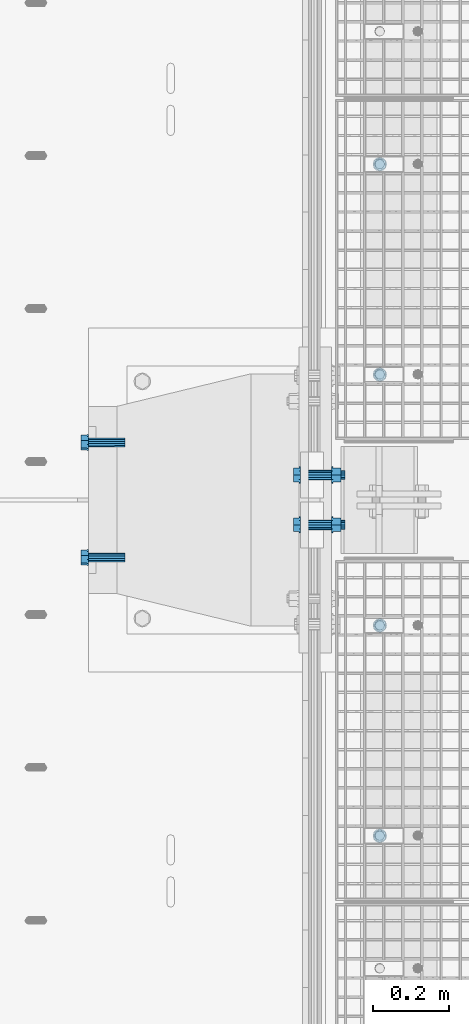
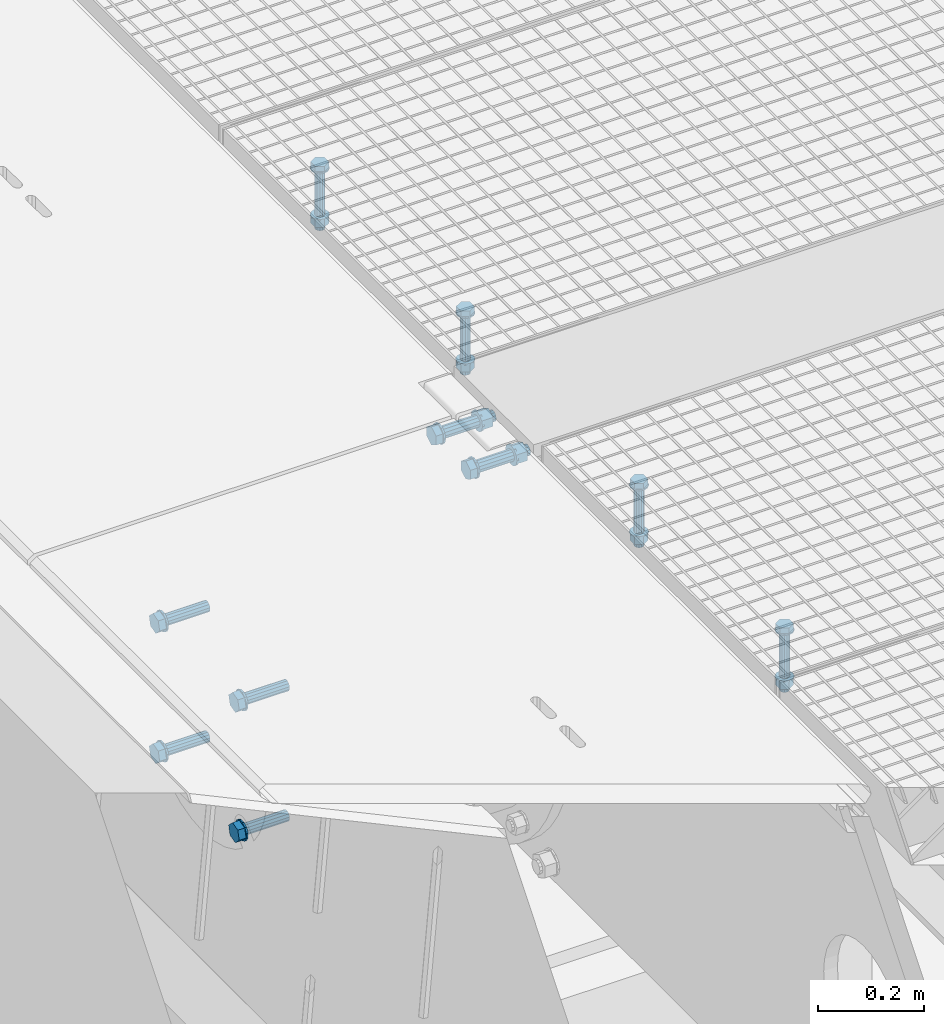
# One storey, part 13 of 1530: 5 mechanical fasteners.
"""IFC2X3 building model written with IfcOpenShell, lengths in millimetres."""

from ifc_helpers import new_model, si_unit, frame, origin_with_axes, place, context, subcontext, project, spatial, faceted_brep, source, transform, mapped, material, type_object, element, save


model = new_model("IFC2X3")

# Units and contexts
model_context = context("Model", 3, precision=1e-05, world=origin_with_axes())
body_context = subcontext(model_context, "Body", "Model", "MODEL_VIEW")
ifc_project = project(units=[si_unit("LENGTHUNIT", "METRE", prefix="MILLI"), si_unit("AREAUNIT", "SQUARE_METRE"), si_unit("VOLUMEUNIT", "CUBIC_METRE"), si_unit("MASSUNIT", "GRAM", prefix="KILO"), si_unit("TIMEUNIT", "SECOND"), si_unit("PLANEANGLEUNIT", "RADIAN"), si_unit("SOLIDANGLEUNIT", "STERADIAN"), si_unit("THERMODYNAMICTEMPERATUREUNIT", "DEGREE_CELSIUS"), si_unit("LUMINOUSINTENSITYUNIT", "LUMEN")], contexts=[model_context])

# Site, building, storey
site_placement = place(None, origin_with_axes())
site = spatial("IfcSite", under=ifc_project, at=site_placement, Name="Brattvåg", CompositionType="ELEMENT")
building_placement = place(site_placement, origin_with_axes())
building = spatial("IfcBuilding", under=site, at=building_placement, Name="Undefined", CompositionType="ELEMENT")
storey_placement = place(building_placement, origin_with_axes())
storey = spatial("IfcBuildingStorey", under=building, at=storey_placement, Name="Undefined", CompositionType="ELEMENT", Elevation=0.0)

# Mechanical fasteners
ifc_material = material(Name="8")
mechanical_fastener_type = type_object("IfcMechanicalFastenerType", Name="Bolt assembly")
shared_shape_1 = source(origin_with_axes(), body_context, "Body", "Brep", [
    faceted_brep([(17.3205080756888, -10.5, 0.0), (8.66025403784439, -10.5, 15.0), (-8.66025403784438, -10.5, 15.0), (-17.3205080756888, -10.5, 2.12115047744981e-15), (-8.66025403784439, -10.5, -15.0), (8.66025403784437, -10.5, -15.0), (8.66025403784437, 2.0, -15.0), (-8.66025403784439, 2.0, -15.0), (-17.3205080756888, 2.0, 2.12115047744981e-15), (-8.66025403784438, 2.0, 15.0), (8.66025403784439, 2.0, 15.0), (17.3205080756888, 2.0, 0.0), (10.0, 2.0, 0.0), (8.66025403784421, 2.0, 5.0000000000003), (4.9999999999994, 2.0, 8.66025403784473), (-1.03633598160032e-12, 2.0, 10.0), (-5.00000000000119, 2.0, 8.6602540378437), (-8.66025403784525, 2.0, 4.99999999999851), (-10.0, 2.0, -2.07267196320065e-12), (-8.66025403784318, 2.0, -5.00000000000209), (-4.99999999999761, 2.0, -8.66025403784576), (3.09790571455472e-12, 2.0, -10.0), (5.00000000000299, 2.0, -8.66025403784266), (8.66025403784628, 2.0, -4.99999999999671), (8.66025403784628, 142.0, -4.99999999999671), (5.00000000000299, 142.0, -8.66025403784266), (3.09790571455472e-12, 142.0, -10.0), (-4.99999999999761, 142.0, -8.66025403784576), (-8.66025403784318, 142.0, -5.00000000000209), (-10.0, 142.0, -2.07267196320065e-12), (-8.66025403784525, 142.0, 4.99999999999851), (-5.00000000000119, 142.0, 8.6602540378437), (-1.03633598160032e-12, 142.0, 10.0), (4.9999999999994, 142.0, 8.66025403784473), (8.66025403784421, 142.0, 5.0000000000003), (10.0, 142.0, 0.0), (18.5, 2.0, 0.0), (16.0214699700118, 2.0, 9.25000000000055), (9.2499999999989, 2.0, 16.0214699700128), (-1.9172215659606e-12, 2.0, 18.5), (-9.25000000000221, 2.0, 16.0214699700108), (-16.0214699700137, 2.0, 9.24999999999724), (-18.5, 2.0, -3.83444313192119e-12), (-16.0214699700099, 2.0, -9.25000000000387), (-9.24999999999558, 2.0, -16.0214699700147), (5.73112557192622e-12, 2.0, -18.5), (9.25000000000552, 2.0, -16.0214699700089), (16.0214699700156, 2.0, -9.24999999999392), (16.0214699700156, 5.0, -9.24999999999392), (9.25000000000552, 5.0, -16.0214699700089), (5.73112557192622e-12, 5.0, -18.5), (-9.24999999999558, 5.0, -16.0214699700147), (-16.0214699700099, 5.0, -9.25000000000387), (-18.5, 5.0, -3.83444313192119e-12), (-16.0214699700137, 5.0, 9.24999999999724), (-9.25000000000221, 5.0, 16.0214699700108), (-1.9172215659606e-12, 5.0, 18.5), (9.2499999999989, 5.0, 16.0214699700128), (16.0214699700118, 5.0, 9.25000000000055), (18.5, 5.0, 0.0), (18.5, 109.998931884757, 0.0), (16.0214699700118, 109.998931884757, 9.25000000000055), (9.2499999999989, 109.998931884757, 16.0214699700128), (-1.9172215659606e-12, 109.998931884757, 18.5), (-9.25000000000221, 109.998931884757, 16.0214699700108), (-16.0214699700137, 109.998931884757, 9.24999999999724), (-18.5, 109.998931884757, -3.83444313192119e-12), (-16.0214699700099, 109.998931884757, -9.25000000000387), (-9.24999999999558, 109.998931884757, -16.0214699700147), (5.73112557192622e-12, 109.998931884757, -18.5), (9.25000000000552, 109.998931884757, -16.0214699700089), (16.0214699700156, 109.998931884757, -9.24999999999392), (16.0214699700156, 112.998931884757, -9.24999999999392), (9.25000000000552, 112.998931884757, -16.0214699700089), (5.73112557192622e-12, 112.998931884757, -18.5), (-9.24999999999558, 112.998931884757, -16.0214699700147), (-16.0214699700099, 112.998931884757, -9.25000000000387), (-18.5, 112.998931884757, -3.83444313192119e-12), (-16.0214699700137, 112.998931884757, 9.24999999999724), (-9.25000000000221, 112.998931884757, 16.0214699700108), (-1.9172215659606e-12, 112.998931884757, 18.5), (9.2499999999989, 112.998931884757, 16.0214699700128), (16.0214699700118, 112.998931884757, 9.25000000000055), (18.5, 112.998931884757, 0.0), (17.3205080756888, 112.998931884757, 0.0), (8.66025403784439, 112.998931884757, 15.0), (-8.66025403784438, 112.998931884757, 15.0), (-17.3205080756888, 112.998931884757, 2.12115047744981e-15), (-8.66025403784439, 112.998931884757, -15.0), (8.66025403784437, 112.998931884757, -15.0), (8.66025403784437, 130.998931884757, -15.0), (-8.66025403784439, 130.998931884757, -15.0), (-17.3205080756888, 130.998931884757, 2.12115047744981e-15), (-8.66025403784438, 130.998931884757, 15.0), (8.66025403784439, 130.998931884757, 15.0), (17.3205080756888, 130.998931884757, 0.0)], [[[0, 1, 2, 3, 4, 5]], [[6, 7, 8, 9, 10, 11]], [[0, 11, 10, 1]], [[1, 10, 9, 2]], [[2, 9, 8, 3]], [[3, 8, 7, 4]], [[4, 7, 6, 5]], [[5, 6, 11, 0]], [[12, 13, 14, 15, 16, 17, 18, 19, 20, 21, 22, 23]], [[24, 25, 26, 27, 28, 29, 30, 31, 32, 33, 34, 35]], [[12, 35, 34, 13]], [[13, 34, 33, 14]], [[14, 33, 32, 15]], [[15, 32, 31, 16]], [[16, 31, 30, 17]], [[17, 30, 29, 18]], [[18, 29, 28, 19]], [[19, 28, 27, 20]], [[20, 27, 26, 21]], [[21, 26, 25, 22]], [[22, 25, 24, 23]], [[23, 24, 35, 12]], [[36, 37, 38, 39, 40, 41, 42, 43, 44, 45, 46, 47]], [[48, 49, 50, 51, 52, 53, 54, 55, 56, 57, 58, 59]], [[36, 59, 58, 37]], [[37, 58, 57, 38]], [[38, 57, 56, 39]], [[39, 56, 55, 40]], [[40, 55, 54, 41]], [[41, 54, 53, 42]], [[42, 53, 52, 43]], [[43, 52, 51, 44]], [[44, 51, 50, 45]], [[45, 50, 49, 46]], [[46, 49, 48, 47]], [[47, 48, 59, 36]], [[60, 61, 62, 63, 64, 65, 66, 67, 68, 69, 70, 71]], [[72, 73, 74, 75, 76, 77, 78, 79, 80, 81, 82, 83]], [[60, 83, 82, 61]], [[61, 82, 81, 62]], [[62, 81, 80, 63]], [[63, 80, 79, 64]], [[64, 79, 78, 65]], [[65, 78, 77, 66]], [[66, 77, 76, 67]], [[67, 76, 75, 68]], [[68, 75, 74, 69]], [[69, 74, 73, 70]], [[70, 73, 72, 71]], [[71, 72, 83, 60]], [[84, 85, 86, 87, 88, 89]], [[90, 91, 92, 93, 94, 95]], [[84, 95, 94, 85]], [[85, 94, 93, 86]], [[86, 93, 92, 87]], [[87, 92, 91, 88]], [[88, 91, 90, 89]], [[89, 90, 95, 84]]]),
])
for number, where, z_axis, x_axis, name in (
    (1, (137.004779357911, 6327.91931152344, -25.0), (-1.0, 1.99999855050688e-09, 0.0), (0.0, 1.0, 0.0), "Bolt assembly"),
    (2, (137.004779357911, 5121.91931152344, -25.0), (-1.0, 1.99999855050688e-09, 0.0), (0.0, 1.0, 0.0), "Bolt assembly"),
):
    element("IfcMechanicalFastener", number, at=place(storey_placement, frame(where, z_axis=z_axis, x_axis=x_axis)), inside=storey, type_object=mechanical_fastener_type, material=ifc_material, Name=name, NominalDiameter=20.0, NominalLength=140.0, context=body_context, shape_type="MappedRepresentation", body=[
        mapped(shared_shape_1, transform((0.0, 0.0, 0.0))),
        mapped(shared_shape_1, transform((549.999999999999, 0.0, 0.0))),
    ])
shared_shape_2 = source(origin_with_axes(), body_context, "Body", "Brep", [
    faceted_brep([(20.7846096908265, -19.0, 0.0), (10.3923048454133, -19.0, 18.0), (-10.3923048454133, -19.0, 18.0), (-20.7846096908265, -19.0, 2.54538057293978e-15), (-10.3923048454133, -19.0, -18.0), (10.3923048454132, -19.0, -18.0), (10.3923048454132, -4.0, -18.0), (-10.3923048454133, -4.0, -18.0), (-20.7846096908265, -4.0, 2.54538057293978e-15), (-10.3923048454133, -4.0, 18.0), (10.3923048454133, -4.0, 18.0), (20.7846096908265, -4.0, 0.0), (12.0, -4.0, 0.0), (10.3923048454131, -4.0, 6.00000000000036), (5.99999999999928, -4.0, 10.3923048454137), (-1.24360317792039e-12, -4.0, 12.0), (-6.00000000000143, -4.0, 10.3923048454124), (-10.3923048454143, -4.0, 5.99999999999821), (-12.0, -4.0, -2.48720635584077e-12), (-10.3923048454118, -4.0, -6.00000000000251), (-5.99999999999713, -4.0, -10.3923048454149), (3.71748685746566e-12, -4.0, -12.0), (6.00000000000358, -4.0, -10.3923048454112), (10.3923048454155, -4.0, -5.99999999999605), (10.3923048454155, 96.0, -5.99999999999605), (6.00000000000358, 96.0, -10.3923048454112), (3.71748685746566e-12, 96.0, -12.0), (-5.99999999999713, 96.0, -10.3923048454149), (-10.3923048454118, 96.0, -6.00000000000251), (-12.0, 96.0, -2.48720635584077e-12), (-10.3923048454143, 96.0, 5.99999999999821), (-6.00000000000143, 96.0, 10.3923048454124), (-1.24360317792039e-12, 96.0, 12.0), (5.99999999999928, 96.0, 10.3923048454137), (10.3923048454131, 96.0, 6.00000000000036), (12.0, 96.0, 0.0), (22.0, -4.0, 0.0), (19.0525588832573, -4.0, 11.0000000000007), (10.9999999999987, -4.0, 19.0525588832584), (-2.27993915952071e-12, -4.0, 22.0), (-11.0000000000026, -4.0, 19.0525588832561), (-19.0525588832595, -4.0, 10.9999999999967), (-22.0, -4.0, -4.55987831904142e-12), (-19.052558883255, -4.0, -11.0000000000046), (-10.9999999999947, -4.0, -19.0525588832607), (6.81539257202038e-12, -4.0, -22.0), (11.0000000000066, -4.0, -19.0525588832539), (19.0525588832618, -4.0, -10.9999999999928), (19.0525588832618, 0.0, -10.9999999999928), (11.0000000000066, 0.0, -19.0525588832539), (6.81539257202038e-12, 0.0, -22.0), (-10.9999999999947, 0.0, -19.0525588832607), (-19.052558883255, 0.0, -11.0000000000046), (-22.0, 0.0, -4.55987831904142e-12), (-19.0525588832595, 0.0, 10.9999999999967), (-11.0000000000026, 0.0, 19.0525588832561), (-2.27993915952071e-12, 0.0, 22.0), (10.9999999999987, 0.0, 19.0525588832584), (19.0525588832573, 0.0, 11.0000000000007), (22.0, 0.0, 0.0)], [[[0, 1, 2, 3, 4, 5]], [[6, 7, 8, 9, 10, 11]], [[0, 11, 10, 1]], [[1, 10, 9, 2]], [[2, 9, 8, 3]], [[3, 8, 7, 4]], [[4, 7, 6, 5]], [[5, 6, 11, 0]], [[12, 13, 14, 15, 16, 17, 18, 19, 20, 21, 22, 23]], [[24, 25, 26, 27, 28, 29, 30, 31, 32, 33, 34, 35]], [[12, 35, 34, 13]], [[13, 34, 33, 14]], [[14, 33, 32, 15]], [[15, 32, 31, 16]], [[16, 31, 30, 17]], [[17, 30, 29, 18]], [[18, 29, 28, 19]], [[19, 28, 27, 20]], [[20, 27, 26, 21]], [[21, 26, 25, 22]], [[22, 25, 24, 23]], [[23, 24, 35, 12]], [[36, 37, 38, 39, 40, 41, 42, 43, 44, 45, 46, 47]], [[48, 49, 50, 51, 52, 53, 54, 55, 56, 57, 58, 59]], [[36, 59, 58, 37]], [[37, 58, 57, 38]], [[38, 57, 56, 39]], [[39, 56, 55, 40]], [[40, 55, 54, 41]], [[41, 54, 53, 42]], [[42, 53, 52, 43]], [[43, 52, 51, 44]], [[44, 51, 50, 45]], [[45, 50, 49, 46]], [[46, 49, 48, 47]], [[47, 48, 59, 36]]]),
])
mechanical_fastener_placement = place(storey_placement, frame((-625.003913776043, 5999.99526545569, -514.998199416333), z_axis=(3.30839999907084e-05, -0.70710678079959, -0.707106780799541), x_axis=(1.00000053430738e-09, 0.707106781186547, -0.707106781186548)))
element("IfcMechanicalFastener", 3, at=mechanical_fastener_placement, inside=storey, type_object=mechanical_fastener_type, material=ifc_material, Name="Bolt assembly", NominalDiameter=24.0, NominalLength=100.0, context=body_context, shape_type="MappedRepresentation", body=[
    mapped(shared_shape_2, transform((212.500000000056, 1.09366737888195e-10, 5.72981662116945e-11))),
    mapped(shared_shape_2, transform((2.5465851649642e-11, -8.85620465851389e-11, 212.499999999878))),
    mapped(shared_shape_2, transform((-212.500000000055, -1.09480424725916e-10, -5.82076609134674e-11))),
    mapped(shared_shape_2, transform((-2.36468622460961e-11, 8.84483597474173e-11, -212.49999999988))),
])
shared_shape_3 = source(origin_with_axes(), body_context, "Body", "Brep", [
    faceted_brep([(20.7846096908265, -19.0, 0.0), (10.3923048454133, -19.0, 18.0), (-10.3923048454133, -19.0, 18.0), (-20.7846096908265, -19.0, 2.54538057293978e-15), (-10.3923048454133, -19.0, -18.0), (10.3923048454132, -19.0, -18.0), (10.3923048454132, -4.0, -18.0), (-10.3923048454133, -4.0, -18.0), (-20.7846096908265, -4.0, 2.54538057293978e-15), (-10.3923048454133, -4.0, 18.0), (10.3923048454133, -4.0, 18.0), (20.7846096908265, -4.0, 0.0), (12.0, -4.0, 0.0), (10.3923048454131, -4.0, 6.00000000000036), (5.99999999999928, -4.0, 10.3923048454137), (-1.24360317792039e-12, -4.0, 12.0), (-6.00000000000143, -4.0, 10.3923048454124), (-10.3923048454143, -4.0, 5.99999999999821), (-12.0, -4.0, -2.48720635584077e-12), (-10.3923048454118, -4.0, -6.00000000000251), (-5.99999999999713, -4.0, -10.3923048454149), (3.71748685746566e-12, -4.0, -12.0), (6.00000000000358, -4.0, -10.3923048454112), (10.3923048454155, -4.0, -5.99999999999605), (10.3923048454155, 115.999999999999, -5.99999999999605), (6.00000000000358, 115.999999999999, -10.3923048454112), (3.71748685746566e-12, 115.999999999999, -12.0), (-5.99999999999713, 115.999999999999, -10.3923048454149), (-10.3923048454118, 115.999999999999, -6.00000000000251), (-12.0, 115.999999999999, -2.48720635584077e-12), (-10.3923048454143, 115.999999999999, 5.99999999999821), (-6.00000000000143, 115.999999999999, 10.3923048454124), (-1.24360317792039e-12, 115.999999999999, 12.0), (5.99999999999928, 115.999999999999, 10.3923048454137), (10.3923048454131, 115.999999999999, 6.00000000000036), (12.0, 115.999999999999, 0.0), (22.0, -4.0, 0.0), (19.0525588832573, -4.0, 11.0000000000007), (10.9999999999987, -4.0, 19.0525588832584), (-2.27993915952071e-12, -4.0, 22.0), (-11.0000000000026, -4.0, 19.0525588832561), (-19.0525588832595, -4.0, 10.9999999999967), (-22.0, -4.0, -4.55987831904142e-12), (-19.052558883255, -4.0, -11.0000000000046), (-10.9999999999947, -4.0, -19.0525588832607), (6.81539257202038e-12, -4.0, -22.0), (11.0000000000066, -4.0, -19.0525588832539), (19.0525588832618, -4.0, -10.9999999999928), (19.0525588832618, 0.0, -10.9999999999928), (11.0000000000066, 0.0, -19.0525588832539), (6.81539257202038e-12, 0.0, -22.0), (-10.9999999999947, 0.0, -19.0525588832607), (-19.052558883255, 0.0, -11.0000000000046), (-22.0, 0.0, -4.55987831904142e-12), (-19.0525588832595, 0.0, 10.9999999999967), (-11.0000000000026, 0.0, 19.0525588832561), (-2.27993915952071e-12, 0.0, 22.0), (10.9999999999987, 0.0, 19.0525588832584), (19.0525588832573, 0.0, 11.0000000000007), (22.0, 0.0, 0.0), (22.0, 80.0044371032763, 0.0), (19.0525588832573, 80.0044371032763, 11.0000000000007), (10.9999999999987, 80.0044371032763, 19.0525588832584), (-2.27993915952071e-12, 80.0044371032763, 22.0), (-11.0000000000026, 80.0044371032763, 19.0525588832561), (-19.0525588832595, 80.0044371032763, 10.9999999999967), (-22.0, 80.0044371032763, -4.55987831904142e-12), (-19.052558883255, 80.0044371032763, -11.0000000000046), (-10.9999999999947, 80.0044371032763, -19.0525588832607), (6.81539257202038e-12, 80.0044371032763, -22.0), (11.0000000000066, 80.0044371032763, -19.0525588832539), (19.0525588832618, 80.0044371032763, -10.9999999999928), (19.0525588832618, 84.0044371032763, -10.9999999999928), (11.0000000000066, 84.0044371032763, -19.0525588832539), (6.81539257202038e-12, 84.0044371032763, -22.0), (-10.9999999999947, 84.0044371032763, -19.0525588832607), (-19.052558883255, 84.0044371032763, -11.0000000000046), (-22.0, 84.0044371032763, -4.55987831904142e-12), (-19.0525588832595, 84.0044371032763, 10.9999999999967), (-11.0000000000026, 84.0044371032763, 19.0525588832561), (-2.27993915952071e-12, 84.0044371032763, 22.0), (10.9999999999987, 84.0044371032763, 19.0525588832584), (19.0525588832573, 84.0044371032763, 11.0000000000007), (22.0, 84.0044371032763, 0.0), (20.7846096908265, 84.0044371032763, 0.0), (10.3923048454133, 84.0044371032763, 18.0), (-10.3923048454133, 84.0044371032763, 18.0), (-20.7846096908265, 84.0044371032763, 2.54538057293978e-15), (-10.3923048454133, 84.0044371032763, -18.0), (10.3923048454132, 84.0044371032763, -18.0), (10.3923048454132, 105.504437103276, -18.0), (-10.3923048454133, 105.504437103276, -18.0), (-20.7846096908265, 105.504437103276, 2.54538057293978e-15), (-10.3923048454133, 105.504437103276, 18.0), (10.3923048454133, 105.504437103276, 18.0), (20.7846096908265, 105.504437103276, 0.0)], [[[0, 1, 2, 3, 4, 5]], [[6, 7, 8, 9, 10, 11]], [[0, 11, 10, 1]], [[1, 10, 9, 2]], [[2, 9, 8, 3]], [[3, 8, 7, 4]], [[4, 7, 6, 5]], [[5, 6, 11, 0]], [[12, 13, 14, 15, 16, 17, 18, 19, 20, 21, 22, 23]], [[24, 25, 26, 27, 28, 29, 30, 31, 32, 33, 34, 35]], [[12, 35, 34, 13]], [[13, 34, 33, 14]], [[14, 33, 32, 15]], [[15, 32, 31, 16]], [[16, 31, 30, 17]], [[17, 30, 29, 18]], [[18, 29, 28, 19]], [[19, 28, 27, 20]], [[20, 27, 26, 21]], [[21, 26, 25, 22]], [[22, 25, 24, 23]], [[23, 24, 35, 12]], [[36, 37, 38, 39, 40, 41, 42, 43, 44, 45, 46, 47]], [[48, 49, 50, 51, 52, 53, 54, 55, 56, 57, 58, 59]], [[36, 59, 58, 37]], [[37, 58, 57, 38]], [[38, 57, 56, 39]], [[39, 56, 55, 40]], [[40, 55, 54, 41]], [[41, 54, 53, 42]], [[42, 53, 52, 43]], [[43, 52, 51, 44]], [[44, 51, 50, 45]], [[45, 50, 49, 46]], [[46, 49, 48, 47]], [[47, 48, 59, 36]], [[60, 61, 62, 63, 64, 65, 66, 67, 68, 69, 70, 71]], [[72, 73, 74, 75, 76, 77, 78, 79, 80, 81, 82, 83]], [[60, 83, 82, 61]], [[61, 82, 81, 62]], [[62, 81, 80, 63]], [[63, 80, 79, 64]], [[64, 79, 78, 65]], [[65, 78, 77, 66]], [[66, 77, 76, 67]], [[67, 76, 75, 68]], [[68, 75, 74, 69]], [[69, 74, 73, 70]], [[70, 73, 72, 71]], [[71, 72, 83, 60]], [[84, 85, 86, 87, 88, 89]], [[90, 91, 92, 93, 94, 95]], [[84, 95, 94, 85]], [[85, 94, 93, 86]], [[86, 93, 92, 87]], [[87, 92, 91, 88]], [[88, 91, 90, 89]], [[89, 90, 95, 84]]]),
    faceted_brep([(13.0, 0.0999999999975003, 0.0), (11.2583302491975, 0.0999999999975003, 6.50000000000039), (6.49999999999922, 0.0999999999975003, 11.2583302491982), (-1.34723677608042e-12, 0.0999999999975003, 13.0), (-6.50000000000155, 0.0999999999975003, 11.2583302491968), (-11.2583302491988, 0.0999999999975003, 6.49999999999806), (-13.0, 0.0999999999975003, -2.69447355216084e-12), (-11.2583302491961, 0.0999999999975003, -6.50000000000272), (-6.4999999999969, 0.0999999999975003, -11.2583302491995), (4.02727742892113e-12, 0.0999999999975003, -13.0), (6.50000000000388, 0.0999999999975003, -11.2583302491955), (11.2583302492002, 0.0999999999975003, -6.49999999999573), (11.2583302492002, 20.0999999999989, -6.49999999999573), (6.50000000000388, 20.0999999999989, -11.2583302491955), (4.02727742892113e-12, 20.0999999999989, -13.0), (-6.4999999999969, 20.0999999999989, -11.2583302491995), (-11.2583302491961, 20.0999999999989, -6.50000000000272), (-13.0, 20.0999999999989, -2.69447355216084e-12), (-11.2583302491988, 20.0999999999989, 6.49999999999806), (-6.50000000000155, 20.0999999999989, 11.2583302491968), (-1.34723677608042e-12, 20.0999999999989, 13.0), (6.49999999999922, 20.0999999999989, 11.2583302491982), (11.2583302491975, 20.0999999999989, 6.50000000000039), (13.0, 20.0999999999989, 0.0), (13.0, 20.0050209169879, 0.0), (11.2583302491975, 20.0050209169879, 6.50000000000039), (6.49999999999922, 20.0050209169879, 11.2583302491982), (-1.34723677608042e-12, 20.0050209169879, 13.0), (-6.50000000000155, 20.0050209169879, 11.2583302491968), (-11.2583302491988, 20.0050209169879, 6.49999999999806), (-13.0, 20.0050209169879, -2.69447355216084e-12), (-11.2583302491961, 20.0050209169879, -6.50000000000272), (-6.4999999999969, 20.0050209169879, -11.2583302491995), (4.02727742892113e-12, 20.0050209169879, -13.0), (6.50000000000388, 20.0050209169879, -11.2583302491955), (11.2583302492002, 20.0050209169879, -6.49999999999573), (11.2583302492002, 50.0050209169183, -6.49999999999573), (6.50000000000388, 50.0050209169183, -11.2583302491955), (4.02727742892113e-12, 50.0050209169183, -13.0), (-6.4999999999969, 50.0050209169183, -11.2583302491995), (-11.2583302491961, 50.0050209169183, -6.50000000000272), (-13.0, 50.0050209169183, -2.69447355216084e-12), (-11.2583302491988, 50.0050209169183, 6.49999999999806), (-6.50000000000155, 50.0050209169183, 11.2583302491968), (-1.34723677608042e-12, 50.0050209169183, 13.0), (6.49999999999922, 50.0050209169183, 11.2583302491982), (11.2583302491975, 50.0050209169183, 6.50000000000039), (13.0, 50.0050209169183, 0.0), (13.0, 49.9044371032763, 0.0), (11.2583302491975, 49.9044371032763, 6.50000000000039), (6.49999999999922, 49.9044371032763, 11.2583302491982), (-1.34723677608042e-12, 49.9044371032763, 13.0), (-6.50000000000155, 49.9044371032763, 11.2583302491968), (-11.2583302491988, 49.9044371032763, 6.49999999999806), (-13.0, 49.9044371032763, -2.69447355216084e-12), (-11.2583302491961, 49.9044371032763, -6.50000000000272), (-6.4999999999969, 49.9044371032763, -11.2583302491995), (4.02727742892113e-12, 49.9044371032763, -13.0), (6.50000000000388, 49.9044371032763, -11.2583302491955), (11.2583302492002, 49.9044371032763, -6.49999999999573), (11.2583302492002, 80.0044371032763, -6.49999999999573), (6.50000000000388, 80.0044371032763, -11.2583302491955), (4.02727742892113e-12, 80.0044371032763, -13.0), (-6.4999999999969, 80.0044371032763, -11.2583302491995), (-11.2583302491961, 80.0044371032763, -6.50000000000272), (-13.0, 80.0044371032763, -2.69447355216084e-12), (-11.2583302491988, 80.0044371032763, 6.49999999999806), (-6.50000000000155, 80.0044371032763, 11.2583302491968), (-1.34723677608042e-12, 80.0044371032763, 13.0), (6.49999999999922, 80.0044371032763, 11.2583302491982), (11.2583302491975, 80.0044371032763, 6.50000000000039), (13.0, 80.0044371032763, 0.0)], [[[0, 1, 2, 3, 4, 5, 6, 7, 8, 9, 10, 11]], [[12, 13, 14, 15, 16, 17, 18, 19, 20, 21, 22, 23]], [[0, 23, 22, 1]], [[1, 22, 21, 2]], [[2, 21, 20, 3]], [[3, 20, 19, 4]], [[4, 19, 18, 5]], [[5, 18, 17, 6]], [[6, 17, 16, 7]], [[7, 16, 15, 8]], [[8, 15, 14, 9]], [[9, 14, 13, 10]], [[10, 13, 12, 11]], [[11, 12, 23, 0]], [[24, 25, 26, 27, 28, 29, 30, 31, 32, 33, 34, 35]], [[36, 37, 38, 39, 40, 41, 42, 43, 44, 45, 46, 47]], [[24, 47, 46, 25]], [[25, 46, 45, 26]], [[26, 45, 44, 27]], [[27, 44, 43, 28]], [[28, 43, 42, 29]], [[29, 42, 41, 30]], [[30, 41, 40, 31]], [[31, 40, 39, 32]], [[32, 39, 38, 33]], [[33, 38, 37, 34]], [[34, 37, 36, 35]], [[35, 36, 47, 24]], [[48, 49, 50, 51, 52, 53, 54, 55, 56, 57, 58, 59]], [[60, 61, 62, 63, 64, 65, 66, 67, 68, 69, 70, 71]], [[48, 71, 70, 49]], [[49, 70, 69, 50]], [[50, 69, 68, 51]], [[51, 68, 67, 52]], [[52, 67, 66, 53]], [[53, 66, 65, 54]], [[54, 65, 64, 55]], [[55, 64, 63, 56]], [[56, 63, 62, 57]], [[57, 62, 61, 58]], [[58, 61, 60, 59]], [[59, 60, 71, 48]]]),
])
for number, where, z_axis, x_axis, name in (
    (4, (-70.0046011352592, 6064.99743433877, -75.0011876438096), (0.0, 0.999999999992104, 3.97399998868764e-06), (0.0, -3.97399998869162e-06, 0.999999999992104), "Bolt assembly"),
    (5, (-70.0046011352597, 5934.99743433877, -75.0011876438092), (0.0, 0.999999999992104, 3.97399998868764e-06), (0.0, -3.97399998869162e-06, 0.999999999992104), "Bolt assembly"),
):
    element("IfcMechanicalFastener", number, at=place(storey_placement, frame(where, z_axis=z_axis, x_axis=x_axis)), inside=storey, type_object=mechanical_fastener_type, material=ifc_material, Name=name, NominalDiameter=24.0, NominalLength=120.0, context=body_context, shape_type="MappedRepresentation", body=[
        mapped(shared_shape_3, transform((0.0, 0.0, 0.0))),
    ])

save(model, "model.ifc")
